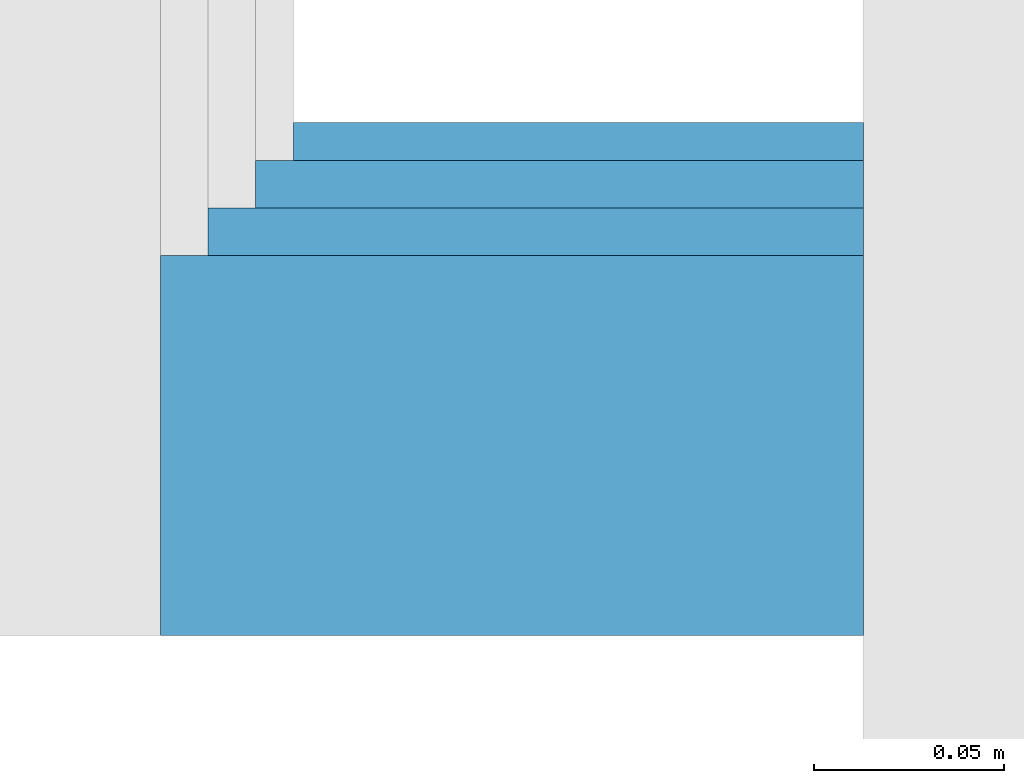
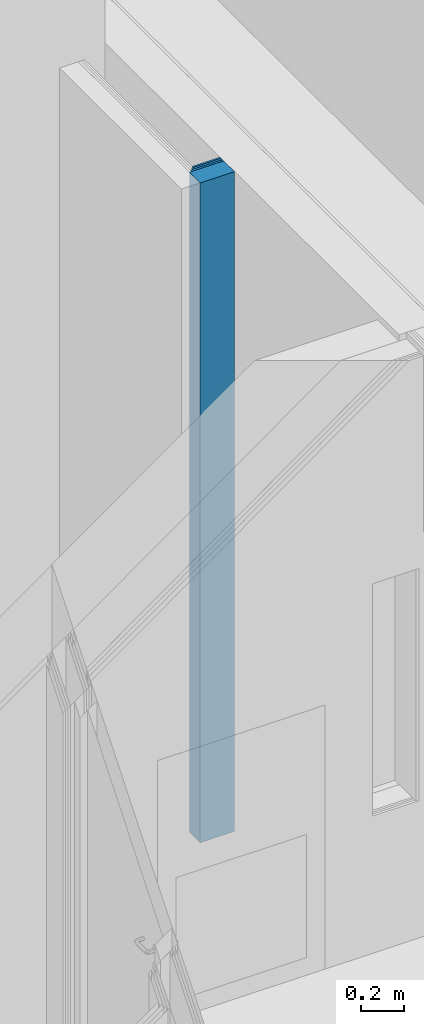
# One storey, part 119 of 139: 4 building element parts, 1 element without a shape of its own.
"""IFC2X3 building model written with IfcOpenShell, lengths in millimetres."""

from ifc_helpers import new_model, entity, si_unit, converted_unit, derived_unit, money_unit, direction, frame, origin_with_axes, place, context, subcontext, project, spatial, faceted_brep, material, type_object, element, aggregate, save


model = new_model("IFC2X3")

# Units and contexts
model_context = context("Model", 3, precision=0.01, world=origin_with_axes(), true_north=direction((0.0, 1.0)))
body_context = subcontext(model_context, "Body", "Model", "MODEL_VIEW")
ifc_project = project(units=[si_unit("LENGTHUNIT", "METRE", prefix="MILLI"), si_unit("AREAUNIT", "SQUARE_METRE"), si_unit("VOLUMEUNIT", "CUBIC_METRE"), converted_unit("PLANEANGLEUNIT", "DEGREE", entity("IfcPlaneAngleMeasure", 0.0174532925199), si_unit("PLANEANGLEUNIT", "RADIAN"), dimensions=[0, 0, 0, 0, 0, 0, 0]), money_unit("EUR"), converted_unit("TIMEUNIT", "Year", entity("IfcTimeMeasure", 31556926.0), si_unit("TIMEUNIT", "SECOND"), dimensions=[0, 0, 1, 0, 0, 0, 0]), si_unit("MASSUNIT", "GRAM", prefix="KILO"), si_unit("THERMODYNAMICTEMPERATUREUNIT", "DEGREE_CELSIUS"), si_unit("LUMINOUSINTENSITYUNIT", "LUMEN"), si_unit("ENERGYUNIT", "JOULE", prefix="MEGA"), derived_unit("THERMALCONDUCTANCEUNIT", [(si_unit("POWERUNIT", "WATT"), 1), (si_unit("LENGTHUNIT", "METRE"), -1), (si_unit("THERMODYNAMICTEMPERATUREUNIT", "KELVIN"), -1)]), derived_unit("SPECIFICHEATCAPACITYUNIT", [(si_unit("ENERGYUNIT", "JOULE"), 1), (si_unit("MASSUNIT", "GRAM", prefix="KILO"), -1), (si_unit("THERMODYNAMICTEMPERATUREUNIT", "KELVIN"), -1)]), derived_unit("MASSDENSITYUNIT", [(si_unit("MASSUNIT", "GRAM", prefix="KILO"), 1), (si_unit("VOLUMEUNIT", "CUBIC_METRE"), -1)])], contexts=[model_context])

# Site, building, storey
site_placement = place(None, origin_with_axes())
site = spatial("IfcSite", under=ifc_project, at=site_placement, Name="Kolde pst 67a", CompositionType="ELEMENT")
building_placement = place(site_placement, origin_with_axes())
building = spatial("IfcBuilding", under=site, at=building_placement, Name="Riigigümnaasium", CompositionType="ELEMENT")
storey_placement = place(building_placement, frame((0.0, 0.0, 4600.0), z_axis=(0.0, 0.0, 1.0), x_axis=(1.0, 0.0, 0.0)))
storey = spatial("IfcBuildingStorey", under=building, at=storey_placement, Name="2. korrus", CompositionType="ELEMENT", Elevation=4600.0)

# Wall, building element parts
wall_type = type_object("IfcWallType", Name="SS-MK-10/6_šahti sein+krohv 40 dB 135", PredefinedType="NOTDEFINED")
wall_placement = place(storey_placement, frame((73429.99953, 22689.9992231, -415.0), z_axis=(0.0, 0.0, 1.0), x_axis=(1.0, 0.0, 0.0)))
wall = element("IfcWall", 1, at=wall_placement, inside=storey, type_object=wall_type, Name="Sisesein")
ifc_material_1 = material(Name="_VIIMISTLUSKIHT - viimistlus vastavalt SA osale")
building_element_part_1_placement = place(wall_placement, origin_with_axes())
building_element_part_1 = element("IfcBuildingElementPart", 2, at=building_element_part_1_placement, material=ifc_material_1, Name="_VIIMISTLUSKIHT - viimistlus vastavalt SA osale", context=body_context, shape_type="Brep", body=[
    faceted_brep([(150.0, 0.0, 3749.99999939), (150.0, -10.0, 3749.99999939), (149.99992839, -10.0000005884, 0.0), (149.99992839, 1.47103662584e-07, 0.0), (0.0, 0.0, 3750.0), (0.0, -10.0, 3750.0), (0.0, -10.0000003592, 0.0), (0.0, 8.9791285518e-08, 0.0)], [[[0, 1, 2, 3]], [[0, 4, 5, 1]], [[6, 2, 1, 5]], [[6, 7, 3, 2]], [[4, 0, 3, 7]], [[7, 6, 5, 4]]]),
])
ifc_material_2 = material(Name="_PLAATMATERJAL - kipsplaat veekindel")
building_element_part_2_placement = place(wall_placement, origin_with_axes())
building_element_part_2 = element("IfcBuildingElementPart", 3, at=building_element_part_2_placement, material=ifc_material_2, Name="_PLAATMATERJAL - kipsplaat veekindel", context=body_context, shape_type="Brep", body=[
    faceted_brep([(150.0, -10.0, 3749.99999939), (150.0, -22.5, 3749.99999938), (149.99992839, -22.5, 0.0), (149.99992839, -10.0000005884, 0.0), (-10.0, -10.0, 3750.0), (-10.0, -22.5, 3750.0), (-10.0, -22.5, 0.0), (-10.0, -10.0000003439, 0.0)], [[[0, 1, 2, 3]], [[0, 4, 5, 1]], [[6, 2, 1, 5]], [[6, 7, 3, 2]], [[4, 0, 3, 7]], [[7, 6, 5, 4]]]),
])
building_element_part_3_placement = place(wall_placement, origin_with_axes())
building_element_part_3 = element("IfcBuildingElementPart", 4, at=building_element_part_3_placement, material=ifc_material_2, Name="_PLAATMATERJAL - kipsplaat veekindel", context=body_context, shape_type="Brep", body=[
    faceted_brep([(150.0, -22.5, 3749.99999938), (150.0, -35.0, 3749.99999938), (149.99992839, -35.0000010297, 0.0), (149.99992839, -22.5, 0.0), (-22.5, -22.5, 3750.0), (-22.5, -35.0, 3750.0), (-22.5, -35.0000005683, 0.0), (-22.5, -22.5, 0.0)], [[[0, 1, 2, 3]], [[0, 4, 5, 1]], [[6, 2, 1, 5]], [[6, 7, 3, 2]], [[4, 0, 3, 7]], [[7, 6, 5, 4]]]),
])
ifc_material_3 = material(Name="_KARKASS - metallkarkass CW 100/50/06 ja UW 100/40/06, samm 600, vahel mineraalvill, helineeldetegur αw = 1.0,  ISOVER ACOUSTIC 100mm või samaväärne")
building_element_part_4_placement = place(wall_placement, origin_with_axes())
building_element_part_4 = element("IfcBuildingElementPart", 5, at=building_element_part_4_placement, material=ifc_material_3, Name="_KARKASS - metallkarkass CW 100/50/06 ja UW 100/40/06, samm 600, vahel mineraalvill, helineeldetegur αw = 1.0,  ISOVER ACOUSTIC 100mm või samaväärne", context=body_context, shape_type="Brep", body=[
    faceted_brep([(150.0, -35.0, 3749.99999938), (150.0, -135.0, 3749.99999934), (149.99992839, -135.0, 0.0), (149.99992839, -35.0000010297, 0.0), (-35.0, -35.0, 3750.0), (-35.0, -135.0, 3750.0), (-35.0, -135.0, 0.0), (-35.0, -35.0000005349, 0.0)], [[[0, 1, 2, 3]], [[0, 4, 5, 1]], [[6, 2, 1, 5]], [[6, 7, 3, 2]], [[4, 0, 3, 7]], [[7, 6, 5, 4]]]),
])
aggregate(wall, [building_element_part_1, building_element_part_2, building_element_part_3, building_element_part_4])

save(model, "model.ifc")
